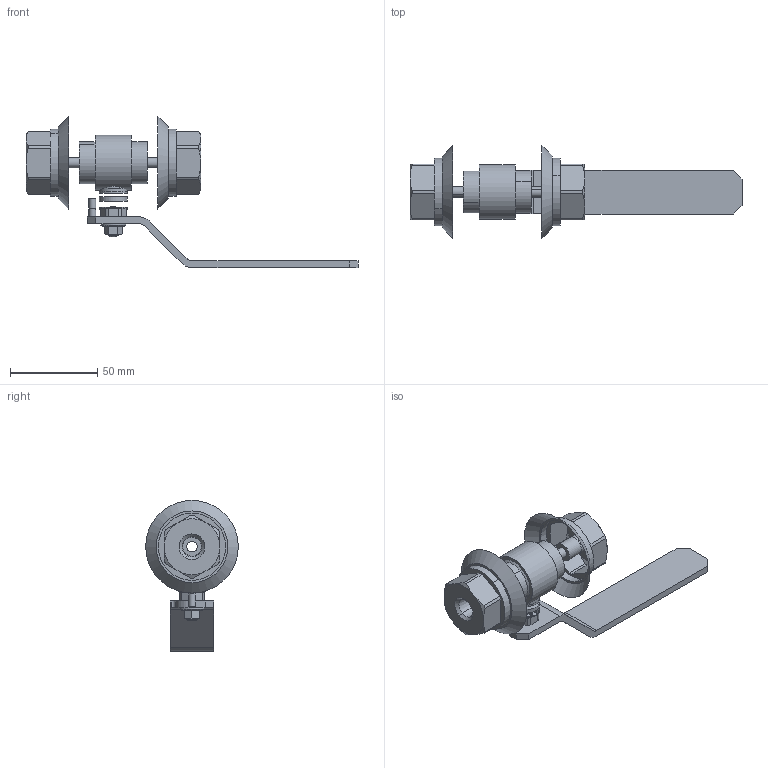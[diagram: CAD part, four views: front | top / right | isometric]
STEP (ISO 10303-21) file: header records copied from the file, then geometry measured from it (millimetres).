
FILE_DESCRIPTION(('STEP AP203'), '1');
FILE_NAME('ZARDP 006.250.10.P.stp', '2013-12-05T08:06:58', ('Øèøêî'), ('Ýíåðïðåä ßðäîñ'), 'ASCON STEP Converter 1.3', 'Kompas 3D', '');
FILE_SCHEMA(('CONFIG_CONTROL_DESIGN','SUPPORT_RESOURCE_SCHEMA'));
Length unit declared in the file: millimetre
Products named in the file (1): 9
Bounding box: 190 x 53 x 86.5 mm (x, y, z)
Volume: 158340.4 mm3; surface area: 35952.3 mm2
Topology: 1 solids, 3 shells, 213 faces, 503 edges, 307 vertices
Faces by surface type: plane 98, cylinder 63, cone 51, bspline 1
Full cylindrical faces by diameter (mm): 4 x2, 6 x2, 8.673 x1, 9 x1, 10 x2, 14.2 x1, 15.8 x1, 16 x2, 31.4 x1, 53 x1
Entity records: 7823 total; most frequent: CARTESIAN_POINT 2771, DIRECTION 1081, ORIENTED_EDGE 1004, EDGE_CURVE 502, AXIS2_PLACEMENT_3D 419, VERTEX_POINT 307, LINE 243, VECTOR 243
